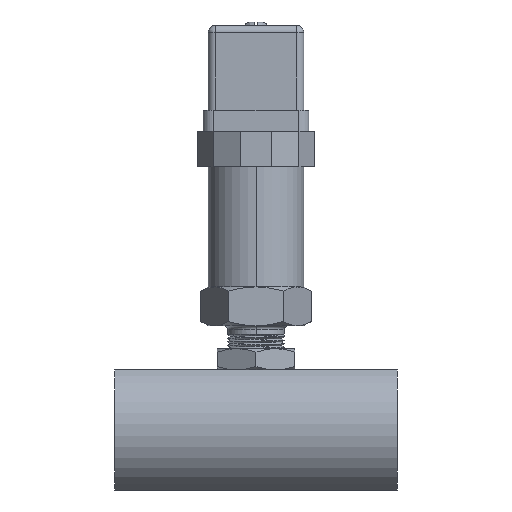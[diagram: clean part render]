
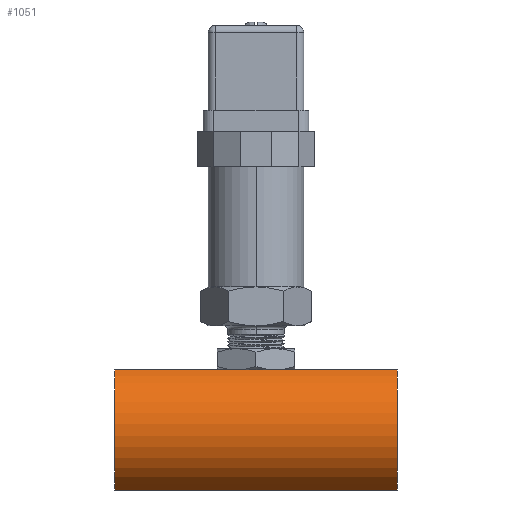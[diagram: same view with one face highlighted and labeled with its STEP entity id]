
A CAD part, left-side view. The second image highlights one B-rep face of the part: STEP entity #1051.
In plain terms, the highlighted cylindrical face has radius 19 mm (diameter 38 mm), a partial arc.
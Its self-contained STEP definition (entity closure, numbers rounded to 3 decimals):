
#356=CYLINDRICAL_SURFACE('',#7319,19.);
#690=FACE_OUTER_BOUND('',#1956,.T.);
#1051=ADVANCED_FACE('',(#690),#356,.T.);
#1487=CIRCLE('',#7312,19.);
#1489=CIRCLE('',#7315,19.);
#1956=EDGE_LOOP('',(#3842,#3843,#3844,#3845));
#3842=ORIENTED_EDGE('',*,*,#5511,.T.);
#3843=ORIENTED_EDGE('',*,*,#5519,.T.);
#3844=ORIENTED_EDGE('',*,*,#5514,.T.);
#3845=ORIENTED_EDGE('',*,*,#5520,.F.);
#4553=VERTEX_POINT('',#13380);
#4554=VERTEX_POINT('',#13382);
#4556=VERTEX_POINT('',#13388);
#4557=VERTEX_POINT('',#13389);
#5511=EDGE_CURVE('',#4554,#4553,#1487,.T.);
#5514=EDGE_CURVE('',#4556,#4557,#1489,.T.);
#5519=EDGE_CURVE('',#4553,#4556,#6188,.T.);
#5520=EDGE_CURVE('',#4554,#4557,#6189,.T.);
#6188=LINE('',#13398,#6817);
#6189=LINE('',#13399,#6818);
#6817=VECTOR('',#8980,1.);
#6818=VECTOR('',#8981,1.);
#7312=AXIS2_PLACEMENT_3D('',#13381,#8963,#8964);
#7315=AXIS2_PLACEMENT_3D('',#13387,#8970,#8971);
#7319=AXIS2_PLACEMENT_3D('',#13400,#8982,#8983);
#8963=DIRECTION('',(0.,-1.,0.));
#8964=DIRECTION('',(-1.,0.,0.));
#8970=DIRECTION('',(0.,1.,0.));
#8971=DIRECTION('',(1.,0.,0.));
#8980=DIRECTION('',(0.,-1.,0.));
#8981=DIRECTION('',(0.,-1.,0.));
#8982=DIRECTION('',(0.,1.,0.));
#8983=DIRECTION('',(1.,0.,0.));
#13380=CARTESIAN_POINT('',(17.03,76.4,-128.));
#13381=CARTESIAN_POINT('',(25.516,76.4,-111.));
#13382=CARTESIAN_POINT('',(17.03,76.4,-94.));
#13387=CARTESIAN_POINT('',(25.516,-3.6,-111.));
#13388=CARTESIAN_POINT('',(17.03,-3.6,-128.));
#13389=CARTESIAN_POINT('',(17.03,-3.6,-94.));
#13398=CARTESIAN_POINT('',(17.03,76.4,-128.));
#13399=CARTESIAN_POINT('',(17.03,76.4,-94.));
#13400=CARTESIAN_POINT('',(25.516,-20.1,-111.));
